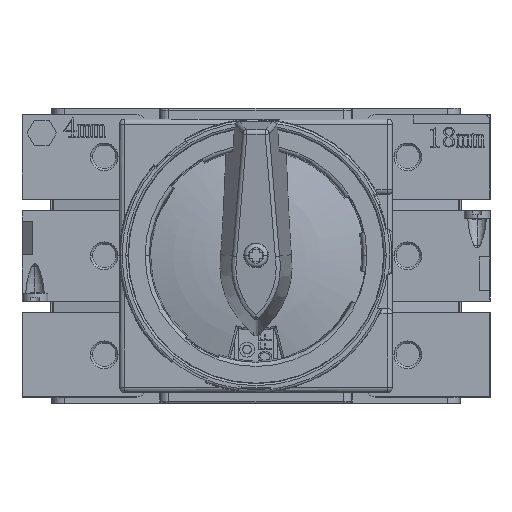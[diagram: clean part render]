
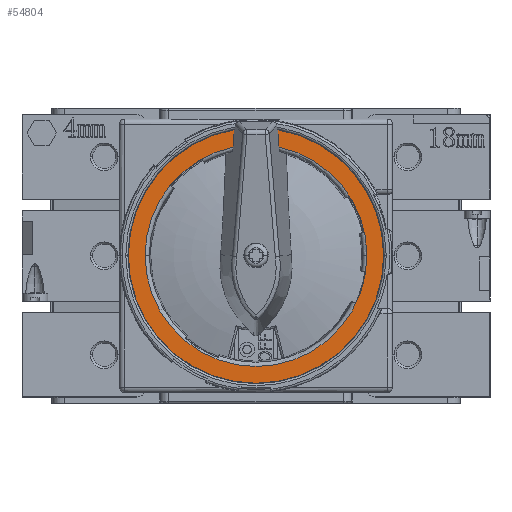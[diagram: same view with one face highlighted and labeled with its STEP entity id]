
A CAD part, top view. The second image highlights one B-rep face of the part: STEP entity #54804.
In plain terms, the highlighted planar face has unit normal (0, 0, 1).
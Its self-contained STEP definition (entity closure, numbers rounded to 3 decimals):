
#5770 = VERTEX_POINT ( 'NONE', #121167 ) ;
#7671 = VERTEX_POINT ( 'NONE', #92027 ) ;
#9555 = DIRECTION ( 'NONE',  ( 0., 0., -1. ) ) ;
#10111 = CARTESIAN_POINT ( 'NONE',  ( 187.024, 219.025, 92.2 ) ) ;
#10393 = EDGE_LOOP ( 'NONE', ( #129354, #130765, #105787, #56656, #63910, #115308, #29386 ) ) ;
#13282 = VERTEX_POINT ( 'NONE', #77344 ) ;
#16837 = FACE_OUTER_BOUND ( 'NONE', #10393, .T. ) ;
#19441 = VECTOR ( 'NONE', #60364, 1000. ) ;
#27267 = CIRCLE ( 'NONE', #100444, 25.976 ) ;
#29091 = CARTESIAN_POINT ( 'NONE',  ( 213., 219.025, 92.2 ) ) ;
#29133 = DIRECTION ( 'NONE',  ( 0., -1., 0. ) ) ;
#29164 = CARTESIAN_POINT ( 'NONE',  ( 218.086, 248.489, 92.2 ) ) ;
#29386 = ORIENTED_EDGE ( 'NONE', *, *, #127446, .F. ) ;
#29414 = CIRCLE ( 'NONE', #57376, 29.9 ) ;
#36175 = DIRECTION ( 'NONE',  ( 0., 0., -1. ) ) ;
#38147 = CARTESIAN_POINT ( 'NONE',  ( 213., 219.025, 92.2 ) ) ;
#39330 = CIRCLE ( 'NONE', #101700, 25.976 ) ;
#40222 = DIRECTION ( 'NONE',  ( 0., 0., 1. ) ) ;
#42013 = CIRCLE ( 'NONE', #100064, 29.9 ) ;
#46536 = AXIS2_PLACEMENT_3D ( 'NONE', #38147, #36175, #98105 ) ;
#48666 = DIRECTION ( 'NONE',  ( 0., 0., -1. ) ) ;
#49091 = CARTESIAN_POINT ( 'NONE',  ( 207.914, 248.489, 92.2 ) ) ;
#54804 = ADVANCED_FACE ( 'NONE', ( #16837 ), #67391, .T. ) ;
#56656 = ORIENTED_EDGE ( 'NONE', *, *, #122086, .T. ) ;
#57376 = AXIS2_PLACEMENT_3D ( 'NONE', #101865, #9555, #29133 ) ;
#60364 = DIRECTION ( 'NONE',  ( -0.063, -0.998, 0. ) ) ;
#61673 = LINE ( 'NONE', #71780, #19441 ) ;
#62178 = VERTEX_POINT ( 'NONE', #29164 ) ;
#63910 = ORIENTED_EDGE ( 'NONE', *, *, #111319, .F. ) ;
#64128 = EDGE_CURVE ( 'NONE', #13282, #71017, #29414, .T. ) ;
#67176 = DIRECTION ( 'NONE',  ( 1., 0., 0. ) ) ;
#67391 = PLANE ( 'NONE',  #99501 ) ;
#69359 = CARTESIAN_POINT ( 'NONE',  ( 219.954, 219.07, 92.2 ) ) ;
#70912 = DIRECTION ( 'NONE',  ( 1., 0., 0. ) ) ;
#71017 = VERTEX_POINT ( 'NONE', #49091 ) ;
#71780 = CARTESIAN_POINT ( 'NONE',  ( 206.191, 221.356, 92.2 ) ) ;
#77344 = CARTESIAN_POINT ( 'NONE',  ( 213., 189.125, 92.2 ) ) ;
#78163 = CARTESIAN_POINT ( 'NONE',  ( 242.9, 219.025, 92.2 ) ) ;
#86049 = EDGE_CURVE ( 'NONE', #7671, #115576, #39330, .T. ) ;
#87346 = DIRECTION ( 'NONE',  ( 0., 0., -1. ) ) ;
#92027 = CARTESIAN_POINT ( 'NONE',  ( 238.976, 219.025, 92.2 ) ) ;
#98105 = DIRECTION ( 'NONE',  ( 1., 0., 0. ) ) ;
#99501 = AXIS2_PLACEMENT_3D ( 'NONE', #78163, #40222, #117873 ) ;
#100064 = AXIS2_PLACEMENT_3D ( 'NONE', #29091, #48666, #130848 ) ;
#100444 = AXIS2_PLACEMENT_3D ( 'NONE', #132229, #109345, #70912 ) ;
#101605 = EDGE_CURVE ( 'NONE', #103146, #62178, #125020, .T. ) ;
#101700 = AXIS2_PLACEMENT_3D ( 'NONE', #127147, #87346, #67176 ) ;
#101865 = CARTESIAN_POINT ( 'NONE',  ( 213., 219.025, 92.2 ) ) ;
#102448 = CIRCLE ( 'NONE', #46536, 25.976 ) ;
#103146 = VERTEX_POINT ( 'NONE', #123884 ) ;
#104737 = EDGE_CURVE ( 'NONE', #103146, #7671, #27267, .T. ) ;
#105787 = ORIENTED_EDGE ( 'NONE', *, *, #86049, .T. ) ;
#109345 = DIRECTION ( 'NONE',  ( 0., 0., -1. ) ) ;
#111319 = EDGE_CURVE ( 'NONE', #71017, #5770, #61673, .T. ) ;
#115308 = ORIENTED_EDGE ( 'NONE', *, *, #64128, .F. ) ;
#115576 = VERTEX_POINT ( 'NONE', #10111 ) ;
#117873 = DIRECTION ( 'NONE',  ( -1., 0., 0. ) ) ;
#120499 = DIRECTION ( 'NONE',  ( -0.063, 0.998, 0. ) ) ;
#121167 = CARTESIAN_POINT ( 'NONE',  ( 207.657, 244.446, 92.2 ) ) ;
#122086 = EDGE_CURVE ( 'NONE', #115576, #5770, #102448, .T. ) ;
#123884 = CARTESIAN_POINT ( 'NONE',  ( 218.343, 244.446, 92.2 ) ) ;
#125020 = LINE ( 'NONE', #69359, #125883 ) ;
#125883 = VECTOR ( 'NONE', #120499, 1000. ) ;
#127147 = CARTESIAN_POINT ( 'NONE',  ( 213., 219.025, 92.2 ) ) ;
#127446 = EDGE_CURVE ( 'NONE', #62178, #13282, #42013, .T. ) ;
#129354 = ORIENTED_EDGE ( 'NONE', *, *, #101605, .F. ) ;
#130765 = ORIENTED_EDGE ( 'NONE', *, *, #104737, .T. ) ;
#130848 = DIRECTION ( 'NONE',  ( 0., -1., 0. ) ) ;
#132229 = CARTESIAN_POINT ( 'NONE',  ( 213., 219.025, 92.2 ) ) ;
